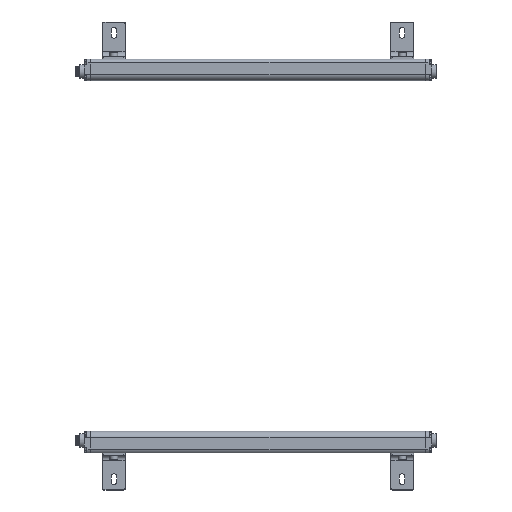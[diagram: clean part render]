
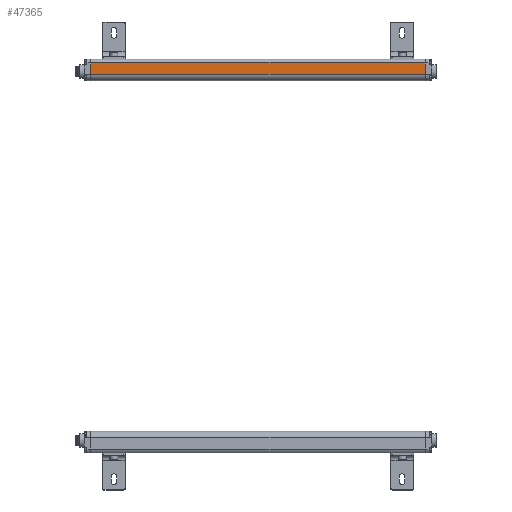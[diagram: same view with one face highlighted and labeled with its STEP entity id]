
A CAD part, left-side view. The second image highlights one B-rep face of the part: STEP entity #47365.
In plain terms, the highlighted planar face has unit normal (-1, 0, 0).
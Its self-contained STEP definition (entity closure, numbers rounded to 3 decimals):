
#3386 = CARTESIAN_POINT ( 'NONE',  ( -17.35, 0., -6.175 ) ) ;
#4758 = VECTOR ( 'NONE', #56698, 1000. ) ;
#5419 = VERTEX_POINT ( 'NONE', #128716 ) ;
#5693 = ORIENTED_EDGE ( 'NONE', *, *, #37403, .T. ) ;
#11185 = CARTESIAN_POINT ( 'NONE',  ( -17.35, 425., -6.175 ) ) ;
#13418 = CARTESIAN_POINT ( 'NONE',  ( -17.35, 425., 8.225 ) ) ;
#16680 = VERTEX_POINT ( 'NONE', #78019 ) ;
#20240 = DIRECTION ( 'NONE',  ( 0., 0., 1. ) ) ;
#24158 = VECTOR ( 'NONE', #20240, 1000. ) ;
#26996 = LINE ( 'NONE', #121806, #141367 ) ;
#30829 = DIRECTION ( 'NONE',  ( 0., 0., 1. ) ) ;
#36004 = VECTOR ( 'NONE', #80380, 1000. ) ;
#37403 = EDGE_CURVE ( 'NONE', #5419, #16680, #77608, .T. ) ;
#39472 = LINE ( 'NONE', #3386, #36004 ) ;
#44751 = VERTEX_POINT ( 'NONE', #11185 ) ;
#47365 = ADVANCED_FACE ( 'NONE', ( #77348 ), #53551, .T. ) ;
#53329 = AXIS2_PLACEMENT_3D ( 'NONE', #98630, #76807, #30829 ) ;
#53551 = PLANE ( 'NONE',  #53329 ) ;
#56698 = DIRECTION ( 'NONE',  ( 0., 0., 1. ) ) ;
#63796 = EDGE_LOOP ( 'NONE', ( #113629, #5693, #137238, #65316 ) ) ;
#65316 = ORIENTED_EDGE ( 'NONE', *, *, #77962, .F. ) ;
#69897 = VERTEX_POINT ( 'NONE', #13418 ) ;
#75417 = CARTESIAN_POINT ( 'NONE',  ( -17.35, 425., 0. ) ) ;
#76807 = DIRECTION ( 'NONE',  ( -1., 0., 0. ) ) ;
#77348 = FACE_OUTER_BOUND ( 'NONE', #63796, .T. ) ;
#77608 = LINE ( 'NONE', #119215, #4758 ) ;
#77962 = EDGE_CURVE ( 'NONE', #44751, #69897, #83053, .T. ) ;
#78019 = CARTESIAN_POINT ( 'NONE',  ( -17.35, 0., 8.225 ) ) ;
#80380 = DIRECTION ( 'NONE',  ( 0., -1., 0. ) ) ;
#80595 = EDGE_CURVE ( 'NONE', #44751, #5419, #39472, .T. ) ;
#83053 = LINE ( 'NONE', #75417, #24158 ) ;
#98630 = CARTESIAN_POINT ( 'NONE',  ( -17.35, 0., -6.175 ) ) ;
#111164 = DIRECTION ( 'NONE',  ( 0., -1., 0. ) ) ;
#113629 = ORIENTED_EDGE ( 'NONE', *, *, #80595, .T. ) ;
#118102 = EDGE_CURVE ( 'NONE', #69897, #16680, #26996, .T. ) ;
#119215 = CARTESIAN_POINT ( 'NONE',  ( -17.35, 0., 0. ) ) ;
#121806 = CARTESIAN_POINT ( 'NONE',  ( -17.35, 0., 8.225 ) ) ;
#128716 = CARTESIAN_POINT ( 'NONE',  ( -17.35, 0., -6.175 ) ) ;
#137238 = ORIENTED_EDGE ( 'NONE', *, *, #118102, .F. ) ;
#141367 = VECTOR ( 'NONE', #111164, 1000. ) ;
